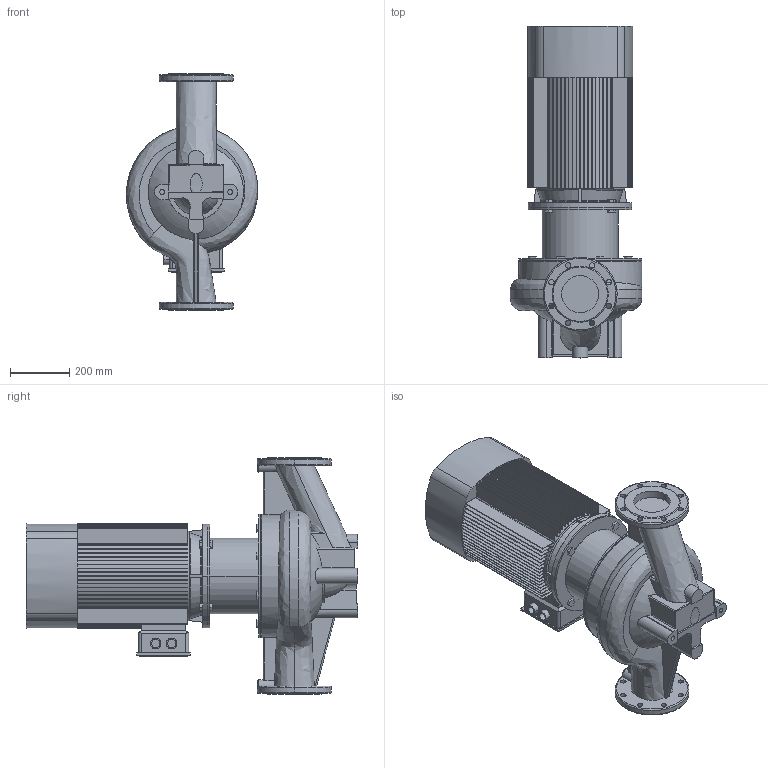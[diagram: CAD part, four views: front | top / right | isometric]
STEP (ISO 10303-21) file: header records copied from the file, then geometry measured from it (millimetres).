
FILE_DESCRIPTION (( 'STEP AP203' ), '1' );
FILE_NAME ('TD125-32G_4.STEP', '2022-05-02T19:18:37', ( '' ), ( '' ), 'SwSTEP 2.0', 'SolidWorks 2019', '' );
FILE_SCHEMA (( 'CONFIG_CONTROL_DESIGN' ));
Length unit declared in the file: millimetre
Products named in the file (4): TD125-32G_4; ED_B5_YE2-180L-4 (22); Pr_ch 125_TD125-32G_4; Fon_125_TD125-32G_4
Assembly tree (3 placements, depth 2):
  TD125-32G_4
    Pr_ch 125_TD125-32G_4
    Fon_125_TD125-32G_4
    ED_B5_YE2-180L-4 (22)
Bounding box: 444.2 x 1122 x 800 mm (x, y, z)
Volume: 95696164.9 mm3; surface area: 4308259.9 mm2
Topology: 5 solids, 7 shells, 728 faces, 1994 edges, 1318 vertices
Faces by surface type: plane 496, cylinder 158, torus 30, bspline 25, cone 17, sphere 2
Entity records: 31459 total; most frequent: CARTESIAN_POINT 12279, ORIENTED_EDGE 3984, DIRECTION 3892, EDGE_CURVE 1992, AXIS2_PLACEMENT_3D 1350, VERTEX_POINT 1318, LINE 1192, VECTOR 1192
